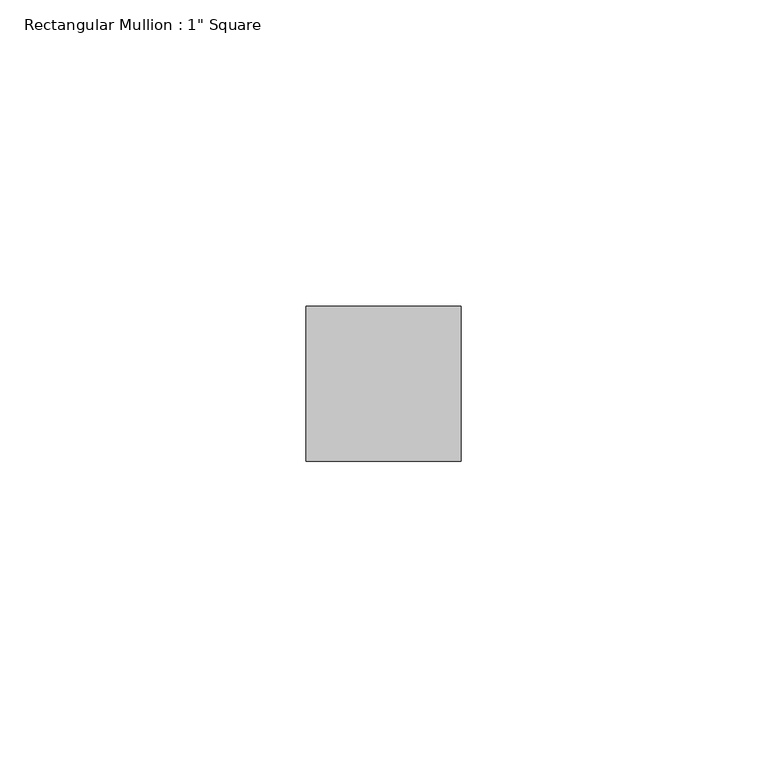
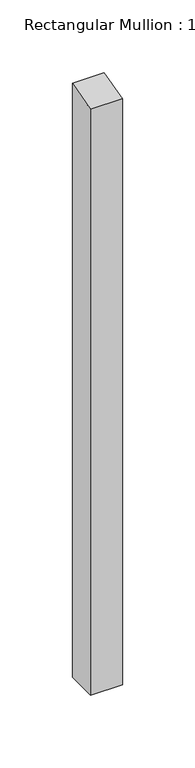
"""IFC4 building model written with IfcOpenShell, lengths in millimetres: member geometry."""

from ifc_helpers import new_model, si_unit, origin, place, context, project, spatial, faceted_brep, source, transform, mapped, element, save


def member_007022bd(model_context):
    return source(origin(), model_context, "Body", "Brep", [
        faceted_brep([(0.0, 12.7, -496.7079644), (0.0, -12.7, -496.7079644), (-25.4, -12.7, -496.7079644), (-25.4, 12.7, -496.7079644), (-25.4, 12.7, 3.3455051), (0.0, 12.7, 3.3412876), (-25.4, -12.7, -3.33707), (0.0, -12.7, -3.3412876)], [[[0, 1, 2, 3]], [[4, 5, 0, 3]], [[6, 4, 3, 2]], [[7, 6, 2, 1]], [[5, 7, 1, 0]], [[5, 4, 6, 7]]]),
    ])


if __name__ == "__main__":
    model = new_model("IFC4")
    model_context = context("Model", 3, world=origin())
    ifc_project = project(units=[si_unit("LENGTHUNIT", "METRE", prefix="MILLI")], contexts=[model_context])
    site = spatial("IfcSite", under=ifc_project)
    building = spatial("IfcBuilding", under=site)
    placement = place(None, origin())
    member_shape = member_007022bd(model_context)
    element("IfcMember", 1, ObjectType="Rectangular Mullion : 1\" Square", at=placement, inside=building, context=model_context, shape_type="MappedRepresentation", body=[
        mapped(member_shape, transform((0.0, 0.0, 0.0), x_axis=(1.0, 0.0, 0.0), y_axis=(0.0, 1.0, 0.0), z_axis=(0.0, 0.0, 1.0))),
    ])
    save(model, "model.ifc")
